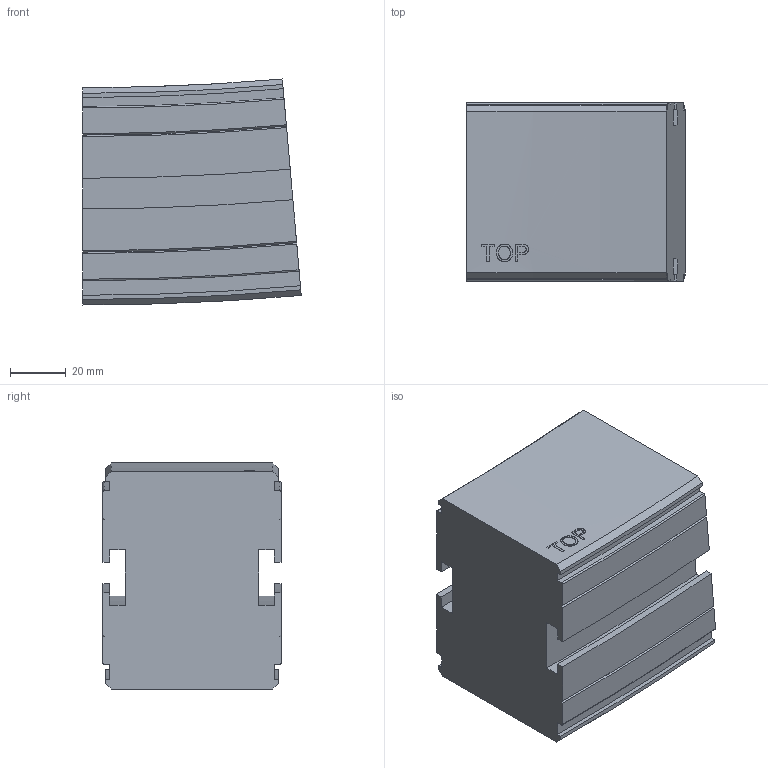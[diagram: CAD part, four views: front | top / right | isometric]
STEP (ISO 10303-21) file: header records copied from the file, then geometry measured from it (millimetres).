
FILE_DESCRIPTION((''),'2;1');
FILE_NAME('C:\Vault Klient\Projekt\Koncept konstruktion\Serie 620 Balk\620-5650_UP.stp','2009-11-26T15:52:28',('Mathias'),(''),'Autodesk Inventor 2010','Autodesk Inventor 2010','');
FILE_SCHEMA(('AUTOMOTIVE_DESIGN { 1 0 10303 214 1 1 1 1 }'));
Length unit declared in the file: millimetre
Products named in the file (1): 620-5650_UP
Bounding box: 78.44 x 64 x 81.13 mm (x, y, z)
Volume: 349410.2 mm3; surface area: 36390.1 mm2
Topology: 1 solids, 1 shells, 93 faces, 258 edges, 172 vertices
Faces by surface type: plane 40, cylinder 23, bspline 14, cone 12, torus 4
Entity records: 3437 total; most frequent: CARTESIAN_POINT 1002, ORIENTED_EDGE 516, DIRECTION 472, EDGE_CURVE 258, VERTEX_POINT 172, AXIS2_PLACEMENT_3D 162, VECTOR 148, LINE 148
